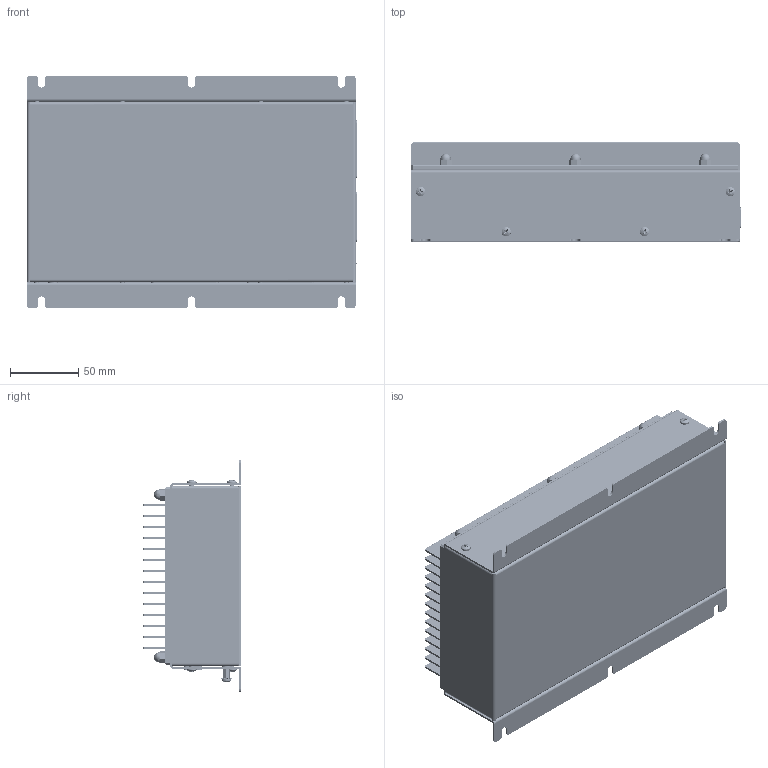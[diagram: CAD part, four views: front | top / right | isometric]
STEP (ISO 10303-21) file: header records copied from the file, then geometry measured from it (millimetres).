
FILE_DESCRIPTION (( 'STEP AP214' ), '1' );
FILE_NAME ('108 cell Final Assembly.STEP', '2019-06-14T19:02:54', ( '' ), ( '' ), 'SwSTEP 2.0', 'SolidWorks 2018', '' );
FILE_SCHEMA (( 'AUTOMOTIVE_DESIGN' ));
Length unit declared in the file: inch
Products named in the file (91): flush stud_pmi; 108 cell Box Bottom; Kingbright WP937EGW; pan cross head_ai; 108 cell bottom board 4-09-16; 108 cell Final Assembly; acorn low crown nut_ai; c-1318384-1-e-3d; thru-hole standoff_pmi_PEM SOA-632-8 ---N; self-clinching nut_pmi; Top Board 08-04-16; acorn low crown nut_ai_ALCNUT 0.1380-32-N; aluminum nut_pmi; Bottom Board with Connectors; thru-hole standoff_pmi; aluminum nut_pmi_PEM CLA-632-2 ---N; flush stud_pmi_PEM FHA-632-6 ---N; external tooth lock washer_ai_ASME B18.21.1 - 0.141; external tooth lock washer_ai; top board with connectos 8-4-16; K3D-MX34028NF2-V2_JAE_Proprietary; c-1376357-01-3-a1-3d; 93505A465; 108 cell Enclosure Bottom; thru-hole standoff_pmi_PEM SOA-632-30 ---N; 108 cell heatsink 14fin; 108 cell box cover; pan cross head_ai_CR-PHMS 0.138-32x0.188x0.188-N; 108 Enclosure Top; self-clinching nut_pmi_PEM S-632-2 ZI--N; 93505A465_93505A465
Assembly tree (72 placements, depth 3):
  flush stud_pmi
  108 cell Box Bottom
  pan cross head_ai
  108 cell Final Assembly
    Bottom Board with Connectors
      c-1318384-1-e-3d  x3
      108 cell bottom board 4-09-16
    108 cell Enclosure Bottom
      108 cell Box Bottom
      thru-hole standoff_pmi_PEM SOA-632-30 ---N  x6
      thru-hole standoff_pmi_PEM SOA-632-8 ---N  x6
      flush stud_pmi_PEM FHA-632-6 ---N  x6
      self-clinching nut_pmi_PEM S-632-2 ZI--N
    108 Enclosure Top
      108 cell box cover
      aluminum nut_pmi_PEM CLA-632-2 ---N  x8
    pan cross head_ai_CR-PHMS 0.138-32x0.188x0.188-N  x21
    93505A465_93505A465
    top board with connectos 8-4-16
      c-1376357-01-3-a1-3d
      Kingbright WP937EGW
      Top Board 08-04-16
      K3D-MX34028NF2-V2_JAE_Proprietary
    acorn low crown nut_ai_ALCNUT 0.1380-32-N  x6
    external tooth lock washer_ai_ASME B18.21.1 - 0.141
    108 cell heatsink 14fin
  acorn low crown nut_ai
Bounding box: 242.13 x 72.59 x 170.59 mm (x, y, z)
Volume: 478593.6 mm3; surface area: 555794.5 mm2
Topology: 67 solids, 67 shells, 8444 faces, 22425 edges, 14489 vertices
Faces by surface type: plane 5627, cylinder 2159, cone 360, bspline 176, torus 66, sphere 56
Entity records: 135659 total; most frequent: CARTESIAN_POINT 31157, ORIENTED_EDGE 21772, DIRECTION 20125, EDGE_CURVE 10886, VECTOR 7619, LINE 7619, VERTEX_POINT 7117, AXIS2_PLACEMENT_3D 6253
